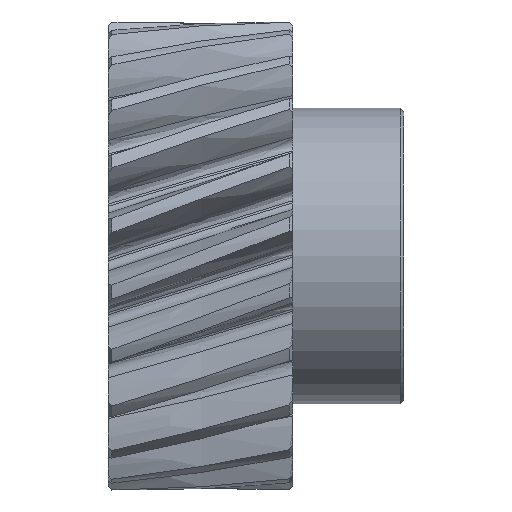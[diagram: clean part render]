
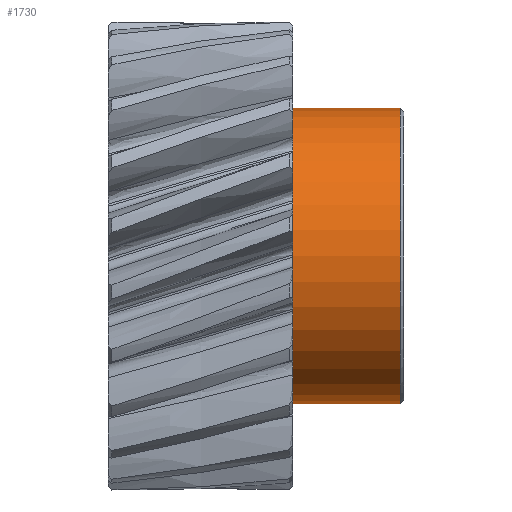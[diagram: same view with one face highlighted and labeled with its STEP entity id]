
A CAD part, front view. The second image highlights one B-rep face of the part: STEP entity #1730.
In plain terms, the highlighted cylindrical face has radius 20 mm (diameter 40 mm), a full revolution.
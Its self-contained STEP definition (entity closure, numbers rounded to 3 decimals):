
#1730=ADVANCED_FACE('',(#6946,#6948),#6950,.T.);
#6946=FACE_OUTER_BOUND('',#6947,.T.);
#6947=EDGE_LOOP('',(#8076));
#6948=FACE_OUTER_BOUND('',#6949,.T.);
#6949=EDGE_LOOP('',(#8077));
#6950=CYLINDRICAL_SURFACE('',#6951,20.);
#6951=AXIS2_PLACEMENT_3D('',#6952,#6953,#6954);
#6952=CARTESIAN_POINT('',(25.,0.,0.));
#6953=DIRECTION('',(1.,0.,0.));
#6954=DIRECTION('',(0.,0.,1.));
#8076=ORIENTED_EDGE('',*,*,#8595,.F.);
#8077=ORIENTED_EDGE('',*,*,#8619,.T.);
#8595=EDGE_CURVE('',#9519,#9519,#9520,.T.);
#8619=EDGE_CURVE('',#9544,#9544,#9545,.T.);
#9519=VERTEX_POINT('',#12671);
#9520=CIRCLE('',#12672,20.);
#9544=VERTEX_POINT('',#12768);
#9545=CIRCLE('',#12769,20.);
#12671=CARTESIAN_POINT('',(39.5,0.,20.));
#12672=AXIS2_PLACEMENT_3D('',#12673,#12674,#12675);
#12673=CARTESIAN_POINT('',(39.5,0.,0.));
#12674=DIRECTION('',(1.,0.,-0.));
#12675=DIRECTION('',(0.,0.,1.));
#12768=CARTESIAN_POINT('',(25.,0.,20.));
#12769=AXIS2_PLACEMENT_3D('',#12770,#12771,#12772);
#12770=CARTESIAN_POINT('',(25.,0.,0.));
#12771=DIRECTION('',(1.,-0.,-0.));
#12772=DIRECTION('',(-0.,-0.,1.));
